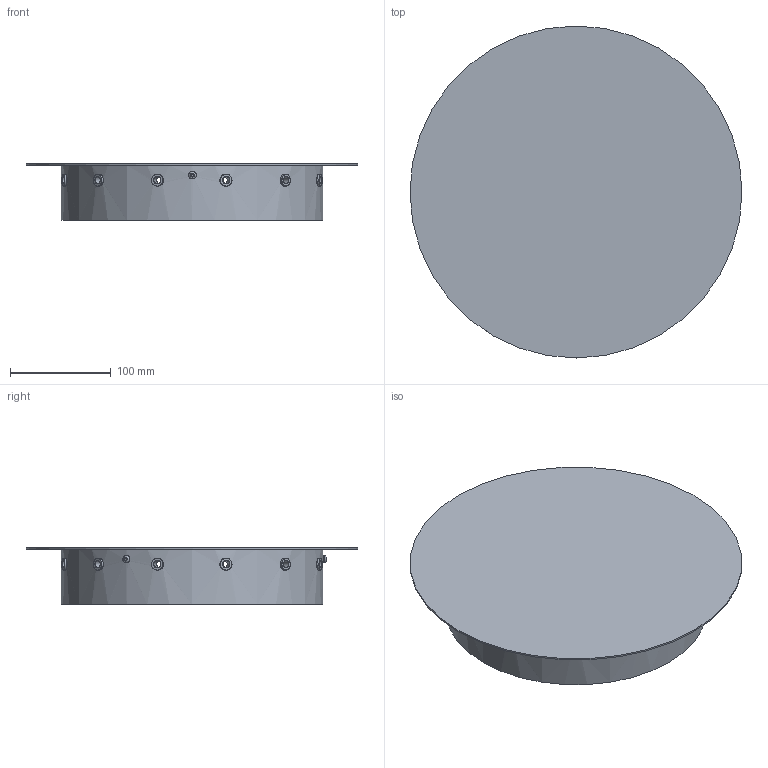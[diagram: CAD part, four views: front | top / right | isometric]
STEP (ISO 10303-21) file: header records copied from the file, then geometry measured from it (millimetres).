
FILE_DESCRIPTION(/* description */ (''),/* implementation_level */ '2;1');
FILE_NAME(/* name */ 'ROSONE SPIDER.stp',/* time_stamp */ '2025-05-29T15:29:30+02:00',/* author */ ('davide.turci'),/* organization */ (''),/* preprocessor_version */ 'ST-DEVELOPER v20',/* originating_system */ 'Autodesk Inventor 2025',/* authorisation */ '');
FILE_SCHEMA (('CONFIG_CONTROL_DESIGN'));
Length unit declared in the file: millimetre
Products named in the file (7): Assieme1; 499C105; 499C103; 499C101; 499C102; B002; VITE TBEI M4X8 ACC.ZINC. BIANCO UNI7380
Assembly tree (19 placements, depth 3):
  Assieme1
    499C105
    499C103
      499C101
      499C102
    B002  x12
    VITE TBEI M4X8 ACC.ZINC. BIANCO UNI7380  x3
Bounding box: 330 x 330 x 56.5 mm (x, y, z)
Volume: 369658.2 mm3; surface area: 383054.4 mm2
Topology: 26 solids, 26 shells, 412 faces, 1036 edges, 694 vertices
Faces by surface type: cylinder 220, plane 108, torus 63, bspline 15, cone 6
Full cylindrical faces by diameter (mm): 1.5 x14, 2.459 x29, 3 x1, 3.242 x4, 4 x4, 4.5 x3, 5 x3, 6 x7, 7 x12, 7.6 x3, 8.5 x5, 10 x12, 12 x12, 44.5 x1, 255.5 x1, 330 x1
Entity records: 10365 total; most frequent: CARTESIAN_POINT 2852, DIRECTION 1579, ORIENTED_EDGE 1398, EDGE_CURVE 699, AXIS2_PLACEMENT_3D 661, VERTEX_POINT 470, EDGE_LOOP 457, CIRCLE 387
